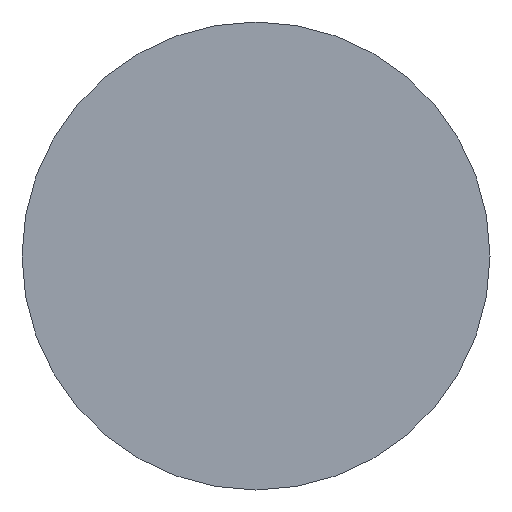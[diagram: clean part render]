
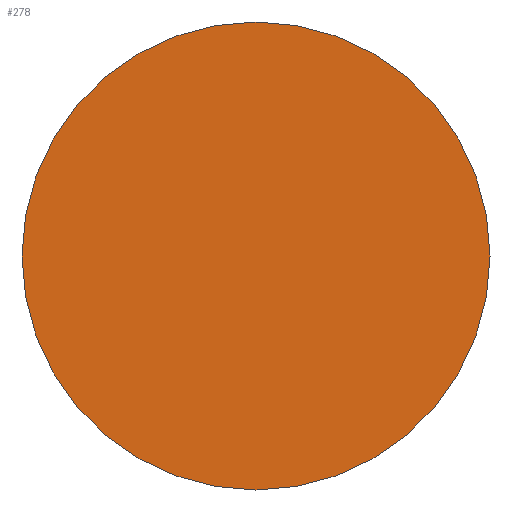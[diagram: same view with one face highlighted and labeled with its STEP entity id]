
A CAD part, left-side view. The second image highlights one B-rep face of the part: STEP entity #278.
In plain terms, the highlighted planar face has unit normal (-1, 0, 0).
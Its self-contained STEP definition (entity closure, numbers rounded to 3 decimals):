
#8 = VERTEX_POINT ( 'NONE', #254 ) ;
#15 = EDGE_CURVE ( 'NONE', #286, #8, #202, .T. ) ;
#24 = DIRECTION ( 'NONE',  ( 0., 0., 1. ) ) ;
#28 = FACE_OUTER_BOUND ( 'NONE', #166, .T. ) ;
#70 = AXIS2_PLACEMENT_3D ( 'NONE', #149, #181, #180 ) ;
#80 = CIRCLE ( 'NONE', #130, 2.5 ) ;
#84 = DIRECTION ( 'NONE',  ( -1., 0., 0. ) ) ;
#99 = ORIENTED_EDGE ( 'NONE', *, *, #222, .T. ) ;
#106 = ORIENTED_EDGE ( 'NONE', *, *, #15, .T. ) ;
#109 = DIRECTION ( 'NONE',  ( 0., 0., 1. ) ) ;
#111 = DIRECTION ( 'NONE',  ( -1., 0., 0. ) ) ;
#112 = CARTESIAN_POINT ( 'NONE',  ( 0., 0., 0. ) ) ;
#127 = CARTESIAN_POINT ( 'NONE',  ( 0., 0., -2.5 ) ) ;
#130 = AXIS2_PLACEMENT_3D ( 'NONE', #112, #111, #109 ) ;
#149 = CARTESIAN_POINT ( 'NONE',  ( 0., 0., 0. ) ) ;
#166 = EDGE_LOOP ( 'NONE', ( #99, #106 ) ) ;
#168 = CARTESIAN_POINT ( 'NONE',  ( 0., 0., 0. ) ) ;
#180 = DIRECTION ( 'NONE',  ( 0., 0., -1. ) ) ;
#181 = DIRECTION ( 'NONE',  ( 1., 0., 0. ) ) ;
#202 = CIRCLE ( 'NONE', #211, 2.5 ) ;
#206 = PLANE ( 'NONE',  #70 ) ;
#211 = AXIS2_PLACEMENT_3D ( 'NONE', #168, #84, #24 ) ;
#222 = EDGE_CURVE ( 'NONE', #8, #286, #80, .T. ) ;
#254 = CARTESIAN_POINT ( 'NONE',  ( 0., 0., 2.5 ) ) ;
#278 = ADVANCED_FACE ( 'NONE', ( #28 ), #206, .F. ) ;
#286 = VERTEX_POINT ( 'NONE', #127 ) ;
